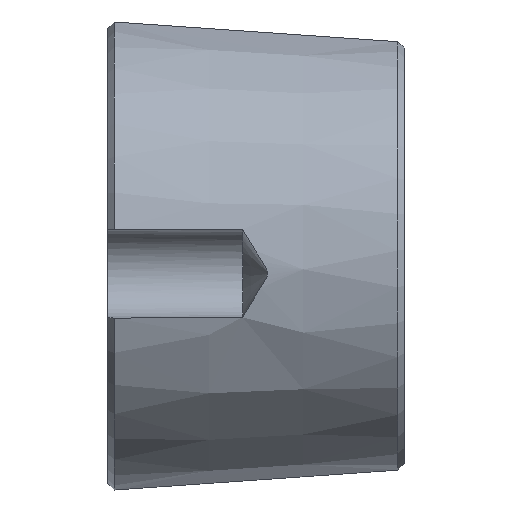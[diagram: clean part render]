
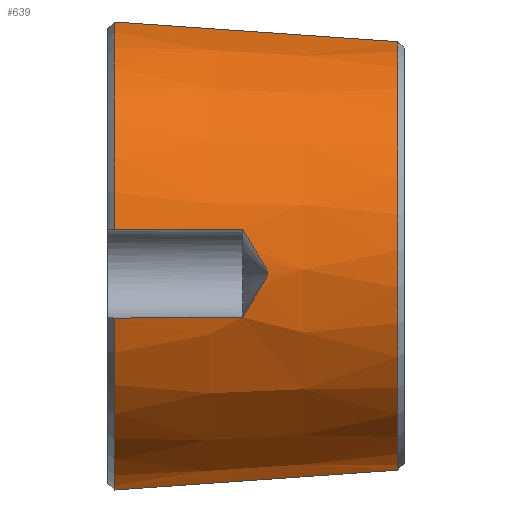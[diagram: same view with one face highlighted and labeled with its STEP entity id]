
A CAD part, top view. The second image highlights one B-rep face of the part: STEP entity #639.
In plain terms, the highlighted conical face has half-angle 4 degrees and reference radius 16.766 mm.
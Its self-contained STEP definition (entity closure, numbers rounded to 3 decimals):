
#27=(
BOUNDED_CURVE()
B_SPLINE_CURVE(2,(#1070,#1071,#1072),.UNSPECIFIED.,.F.,.F.)
B_SPLINE_CURVE_WITH_KNOTS((3,3),(0.,2.105),.UNSPECIFIED.)
CURVE()
GEOMETRIC_REPRESENTATION_ITEM()
RATIONAL_B_SPLINE_CURVE((1.,1.001,1.))
REPRESENTATION_ITEM('')
);
#115=CONICAL_SURFACE('',#685,16.766,4.);
#132=FACE_OUTER_BOUND('',#168,.T.);
#168=EDGE_LOOP('',(#446,#447,#448,#449,#450,#451,#452,#453));
#204=CIRCLE('',#680,16.032);
#208=CIRCLE('',#686,17.5);
#209=CIRCLE('',#687,17.5);
#237=B_SPLINE_CURVE_WITH_KNOTS('',3,(#936,#937,#938,#939,#940,#941,#942,
#943),.UNSPECIFIED.,.F.,.F.,(4,2,2,4),(0.937,1.648,
2.751,2.909),.UNSPECIFIED.);
#245=B_SPLINE_CURVE_WITH_KNOTS('',3,(#1032,#1033,#1034,#1035,#1036,#1037),
 .UNSPECIFIED.,.F.,.F.,(4,2,4),(0.945,1.116,1.82),
 .UNSPECIFIED.);
#246=B_SPLINE_CURVE_WITH_KNOTS('',3,(#1039,#1040,#1041,#1042,#1043,#1044,
#1045,#1046,#1047,#1048,#1049,#1050,#1051,#1052,#1053,#1054,#1055,#1056,
#1057,#1058,#1059,#1060),.UNSPECIFIED.,.F.,.F.,(4,2,2,2,2,2,2,2,2,2,4),
(1.989,2.097,2.233,2.302,2.336,
2.37,2.404,2.438,2.507,2.644,
2.751),.UNSPECIFIED.);
#247=B_SPLINE_CURVE_WITH_KNOTS('',3,(#1062,#1063,#1064,#1065,#1066,#1067),
 .UNSPECIFIED.,.F.,.F.,(4,2,4),(0.953,1.657,1.828),
 .UNSPECIFIED.);
#252=VERTEX_POINT('',#929);
#254=VERTEX_POINT('',#935);
#262=VERTEX_POINT('',#978);
#269=VERTEX_POINT('',#1029);
#270=VERTEX_POINT('',#1031);
#271=VERTEX_POINT('',#1038);
#272=VERTEX_POINT('',#1061);
#273=VERTEX_POINT('',#1068);
#321=EDGE_CURVE('',#254,#252,#237,.T.);
#331=EDGE_CURVE('',#254,#262,#204,.T.);
#340=EDGE_CURVE('',#252,#269,#208,.T.);
#341=EDGE_CURVE('',#269,#270,#245,.T.);
#342=EDGE_CURVE('',#271,#270,#246,.T.);
#343=EDGE_CURVE('',#271,#272,#247,.T.);
#344=EDGE_CURVE('',#272,#273,#209,.T.);
#345=EDGE_CURVE('',#273,#262,#27,.T.);
#446=ORIENTED_EDGE('',*,*,#321,.T.);
#447=ORIENTED_EDGE('',*,*,#340,.T.);
#448=ORIENTED_EDGE('',*,*,#341,.T.);
#449=ORIENTED_EDGE('',*,*,#342,.F.);
#450=ORIENTED_EDGE('',*,*,#343,.T.);
#451=ORIENTED_EDGE('',*,*,#344,.T.);
#452=ORIENTED_EDGE('',*,*,#345,.T.);
#453=ORIENTED_EDGE('',*,*,#331,.F.);
#639=ADVANCED_FACE('',(#132),#115,.T.);
#680=AXIS2_PLACEMENT_3D('',#979,#762,#763);
#685=AXIS2_PLACEMENT_3D('',#1028,#773,#774);
#686=AXIS2_PLACEMENT_3D('',#1030,#775,#776);
#687=AXIS2_PLACEMENT_3D('',#1069,#777,#778);
#762=DIRECTION('center_axis',(1.,0.,0.));
#763=DIRECTION('ref_axis',(0.,0.,-1.));
#773=DIRECTION('center_axis',(-1.,0.,0.));
#774=DIRECTION('ref_axis',(0.,1.,0.));
#775=DIRECTION('center_axis',(1.,0.,0.));
#776=DIRECTION('ref_axis',(0.,0.,-1.));
#777=DIRECTION('center_axis',(1.,0.,0.));
#778=DIRECTION('ref_axis',(0.,0.,-1.));
#929=CARTESIAN_POINT('',(-11.627,16.901,3.182));
#935=CARTESIAN_POINT('',(9.373,15.441,2.999));
#936=CARTESIAN_POINT('Ctrl Pts',(9.373,15.441,2.999));
#937=CARTESIAN_POINT('Ctrl Pts',(6.774,15.614,3.063));
#938=CARTESIAN_POINT('Ctrl Pts',(4.202,15.788,3.11));
#939=CARTESIAN_POINT('Ctrl Pts',(-1.832,16.202,3.191));
#940=CARTESIAN_POINT('Ctrl Pts',(-5.866,16.485,3.212));
#941=CARTESIAN_POINT('Ctrl Pts',(-10.475,16.818,3.19));
#942=CARTESIAN_POINT('Ctrl Pts',(-11.052,16.859,3.186));
#943=CARTESIAN_POINT('Ctrl Pts',(-11.627,16.901,3.182));
#978=CARTESIAN_POINT('',(9.373,-16.321,0.75));
#979=CARTESIAN_POINT('Origin',(9.373,-0.307,0.));
#1028=CARTESIAN_POINT('Origin',(-1.127,-0.307,0.));
#1029=CARTESIAN_POINT('',(-11.627,1.466,17.41));
#1030=CARTESIAN_POINT('Origin',(-11.627,-0.307,0.));
#1031=CARTESIAN_POINT('',(-2.127,1.522,16.736));
#1032=CARTESIAN_POINT('Ctrl Pts',(-11.627,1.466,17.41));
#1033=CARTESIAN_POINT('Ctrl Pts',(-11.005,1.474,17.365));
#1034=CARTESIAN_POINT('Ctrl Pts',(-10.381,1.482,17.321));
#1035=CARTESIAN_POINT('Ctrl Pts',(-7.184,1.515,17.092));
#1036=CARTESIAN_POINT('Ctrl Pts',(-4.609,1.525,16.91));
#1037=CARTESIAN_POINT('Ctrl Pts',(-2.127,1.522,16.736));
#1038=CARTESIAN_POINT('',(-2.127,-5.015,16.164));
#1039=CARTESIAN_POINT('Ctrl Pts',(-2.127,-5.015,16.164));
#1040=CARTESIAN_POINT('Ctrl Pts',(-1.942,-4.715,16.238));
#1041=CARTESIAN_POINT('Ctrl Pts',(-1.756,-4.413,16.303));
#1042=CARTESIAN_POINT('Ctrl Pts',(-1.337,-3.728,16.433));
#1043=CARTESIAN_POINT('Ctrl Pts',(-1.09,-3.321,16.495));
#1044=CARTESIAN_POINT('Ctrl Pts',(-0.729,-2.721,
16.564));
#1045=CARTESIAN_POINT('Ctrl Pts',(-0.612,-2.526,
16.583));
#1046=CARTESIAN_POINT('Ctrl Pts',(-0.446,-2.241,16.606));
#1047=CARTESIAN_POINT('Ctrl Pts',(-0.393,-2.149,
16.613));
#1048=CARTESIAN_POINT('Ctrl Pts',(-0.296,-1.964,
16.626));
#1049=CARTESIAN_POINT('Ctrl Pts',(-0.241,-1.877,
16.63));
#1050=CARTESIAN_POINT('Ctrl Pts',(-0.241,-1.65,
16.65));
#1051=CARTESIAN_POINT('Ctrl Pts',(-0.296,-1.563,16.661));
#1052=CARTESIAN_POINT('Ctrl Pts',(-0.393,-1.379,16.68));
#1053=CARTESIAN_POINT('Ctrl Pts',(-0.446,-1.287,
16.69));
#1054=CARTESIAN_POINT('Ctrl Pts',(-0.612,-1.002,16.716));
#1055=CARTESIAN_POINT('Ctrl Pts',(-0.729,-0.807,
16.732));
#1056=CARTESIAN_POINT('Ctrl Pts',(-1.09,-0.204,
16.768));
#1057=CARTESIAN_POINT('Ctrl Pts',(-1.337,0.208,16.777));
#1058=CARTESIAN_POINT('Ctrl Pts',(-1.756,0.905,16.769));
#1059=CARTESIAN_POINT('Ctrl Pts',(-1.942,1.213,16.757));
#1060=CARTESIAN_POINT('Ctrl Pts',(-2.127,1.522,16.736));
#1061=CARTESIAN_POINT('',(-11.627,-5.077,16.838));
#1062=CARTESIAN_POINT('Ctrl Pts',(-2.127,-5.015,16.164));
#1063=CARTESIAN_POINT('Ctrl Pts',(-4.609,-5.049,16.335));
#1064=CARTESIAN_POINT('Ctrl Pts',(-7.184,-5.07,16.516));
#1065=CARTESIAN_POINT('Ctrl Pts',(-10.381,-5.077,16.747));
#1066=CARTESIAN_POINT('Ctrl Pts',(-11.005,-5.078,16.792));
#1067=CARTESIAN_POINT('Ctrl Pts',(-11.627,-5.077,16.838));
#1068=CARTESIAN_POINT('',(-11.627,-17.791,0.75));
#1069=CARTESIAN_POINT('Origin',(-11.627,-0.307,0.));
#1070=CARTESIAN_POINT('Ctrl Pts',(-11.627,-17.791,0.75));
#1071=CARTESIAN_POINT('Ctrl Pts',(-0.667,-17.024,
0.75));
#1072=CARTESIAN_POINT('Ctrl Pts',(9.373,-16.321,0.75));
